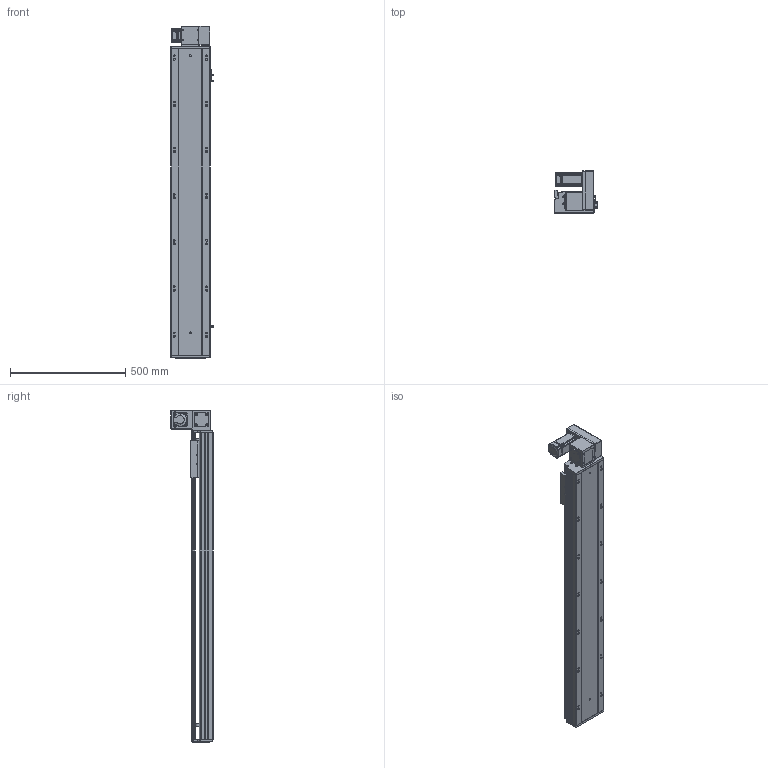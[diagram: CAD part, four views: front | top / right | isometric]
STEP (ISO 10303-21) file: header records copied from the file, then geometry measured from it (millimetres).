
FILE_DESCRIPTION (( 'STEP AP203' ), '1' );
FILE_NAME ('RY170-T-300-UR-P400W.SLDASM_1050.step', '2021-03-01T09:26:32', ( '盈信电脑' ), ( '东莞市道滘镇水果街19号' ), 'SwSTEP 2.0', 'SolidWorks 2012', '' );
FILE_SCHEMA (( 'CONFIG_CONTROL_DESIGN' ));
Products named in the file (18): RY170-T-300-UR-P400W.SLDASM_1050; 15; RY170-T蹟翐M4; RY170-T肮祭謫裔啣; 滅袉蝶18-10; RY120-T主同步轮轴承压盖; RY170-T肮祭湍揤踡輸1; RY170肮祭謫萇儂欶; RY170-T肮祭湍揤踡輸2; RY170肮祭謫ヶ裔啣; RY170外置感应片(200共用）; RY170同步轮电机安装板(400W); RY170翋肮祭謫釱; RY170綴裔啣; RY170-T-300肮祭謫倰第裔啣-DR_1050; 覜茼ん672; RY170肮祭湍臏賑輸; RY170-T-300肮祭謫倰第菁釱-DR_1050
Assembly tree (22 placements, depth 2):
  RY170-T-300-UR-P400W.SLDASM_1050
    RY170-T-300肮祭謫倰第菁釱-DR_1050
    RY170肮祭湍臏賑輸
    RY170-T-300肮祭謫倰第裔啣-DR_1050
    RY170綴裔啣
    覜茼ん672  x3
    RY170外置感应片(200共用）
    RY170肮祭謫ヶ裔啣
    RY170翋肮祭謫釱
    RY170同步轮电机安装板(400W)
    RY170肮祭謫萇儂欶
    RY170-T肮祭湍揤踡輸1  x2
    RY170-T肮祭湍揤踡輸2  x2
    RY120-T主同步轮轴承压盖
    RY170-T肮祭謫裔啣
    RY170-T蹟翐M4
    滅袉蝶18-10  x2
    15
Bounding box: 183.7 x 182 x 1438 mm (x, y, z)
Volume: 7129492.8 mm3; surface area: 2417838.3 mm2
Topology: 22 solids, 22 shells, 2752 faces, 7614 edges, 4881 vertices
Faces by surface type: plane 1260, cylinder 1218, cone 244, bspline 30
Entity records: 81520 total; most frequent: CARTESIAN_POINT 17940, ORIENTED_EDGE 12920, DIRECTION 12778, EDGE_CURVE 6460, AXIS2_PLACEMENT_3D 4489, VERTEX_POINT 4237, VECTOR 3800, LINE 3800
